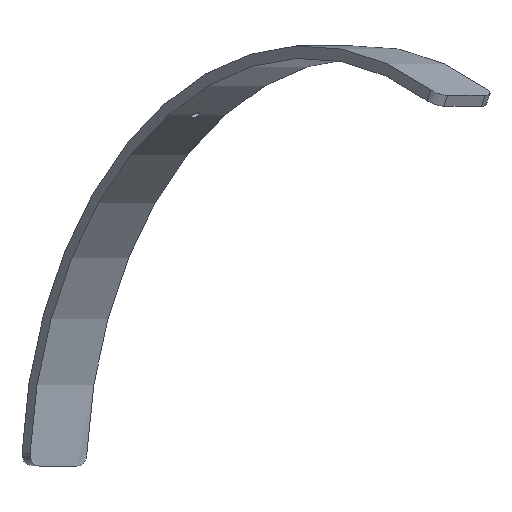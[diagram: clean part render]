
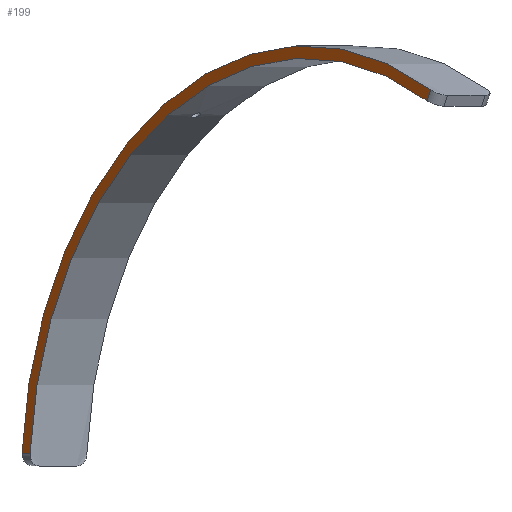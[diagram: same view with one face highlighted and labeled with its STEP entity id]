
A CAD part, front view. The second image highlights one B-rep face of the part: STEP entity #199.
In plain terms, the highlighted planar face has unit normal (-0.76, -0.649, 0).
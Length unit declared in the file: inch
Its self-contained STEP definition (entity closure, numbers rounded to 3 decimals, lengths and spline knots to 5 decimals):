
#9 = DIRECTION ( 'NONE',  ( 0.76, 0.649, 0. ) ) ;
#46 = EDGE_LOOP ( 'NONE', ( #519, #380, #465, #637 ) ) ;
#86 = CARTESIAN_POINT ( 'NONE',  ( 85.11067, -104.2711, 30.86194 ) ) ;
#107 = CARTESIAN_POINT ( 'NONE',  ( 74.8362, -92.24124, 0.46163 ) ) ;
#114 = VECTOR ( 'NONE', #219, 39.37008 ) ;
#119 = DIRECTION ( 'NONE',  ( 0.649, -0.76, 0. ) ) ;
#123 = DIRECTION ( 'NONE',  ( -0.76, -0.649, 0. ) ) ;
#187 = CARTESIAN_POINT ( 'NONE',  ( 75.4123, -92.91577, 0. ) ) ;
#188 = EDGE_CURVE ( 'NONE', #462, #515, #703, .T. ) ;
#199 = ADVANCED_FACE ( 'NONE', ( #533 ), #243, .F. ) ;
#212 = CARTESIAN_POINT ( 'NONE',  ( 85.4106, -104.62227, 31.74938 ) ) ;
#213 = AXIS2_PLACEMENT_3D ( 'NONE', #505, #734, #333 ) ;
#219 = DIRECTION ( 'NONE',  ( 0.649, -0.76, -0.044 ) ) ;
#243 = PLANE ( 'NONE',  #419 ) ;
#314 = CARTESIAN_POINT ( 'NONE',  ( 53.20518, -66.91457, 2.4984 ) ) ;
#333 = DIRECTION ( 'NONE',  ( 0.649, -0.76, 0. ) ) ;
#370 = AXIS2_PLACEMENT_3D ( 'NONE', #713, #123, #119 ) ;
#380 = ORIENTED_EDGE ( 'NONE', *, *, #439, .T. ) ;
#412 = VERTEX_POINT ( 'NONE', #314 ) ;
#419 = AXIS2_PLACEMENT_3D ( 'NONE', #187, #9, #716 ) ;
#439 = EDGE_CURVE ( 'NONE', #515, #412, #568, .T. ) ;
#450 = EDGE_CURVE ( 'NONE', #748, #412, #540, .T. ) ;
#462 = VERTEX_POINT ( 'NONE', #212 ) ;
#465 = ORIENTED_EDGE ( 'NONE', *, *, #450, .F. ) ;
#505 = CARTESIAN_POINT ( 'NONE',  ( 75.4123, -92.91577, 0. ) ) ;
#515 = VERTEX_POINT ( 'NONE', #720 ) ;
#519 = ORIENTED_EDGE ( 'NONE', *, *, #188, .T. ) ;
#533 = FACE_OUTER_BOUND ( 'NONE', #46, .T. ) ;
#540 = CIRCLE ( 'NONE', #213, 34.285 ) ;
#568 = LINE ( 'NONE', #625, #114 ) ;
#571 = DIRECTION ( 'NONE',  ( 0.3, -0.351, 0.887 ) ) ;
#624 = EDGE_CURVE ( 'NONE', #748, #462, #634, .T. ) ;
#625 = CARTESIAN_POINT ( 'NONE',  ( 75.44072, -92.94904, 0.99904 ) ) ;
#628 = VECTOR ( 'NONE', #571, 39.37008 ) ;
#634 = LINE ( 'NONE', #107, #628 ) ;
#637 = ORIENTED_EDGE ( 'NONE', *, *, #624, .T. ) ;
#703 = CIRCLE ( 'NONE', #370, 35.285 ) ;
#713 = CARTESIAN_POINT ( 'NONE',  ( 75.4123, -92.91577, 0. ) ) ;
#716 = DIRECTION ( 'NONE',  ( -0.649, 0.76, 0. ) ) ;
#720 = CARTESIAN_POINT ( 'NONE',  ( 52.55608, -66.15457, 2.54217 ) ) ;
#734 = DIRECTION ( 'NONE',  ( -0.76, -0.649, 0. ) ) ;
#748 = VERTEX_POINT ( 'NONE', #86 ) ;
